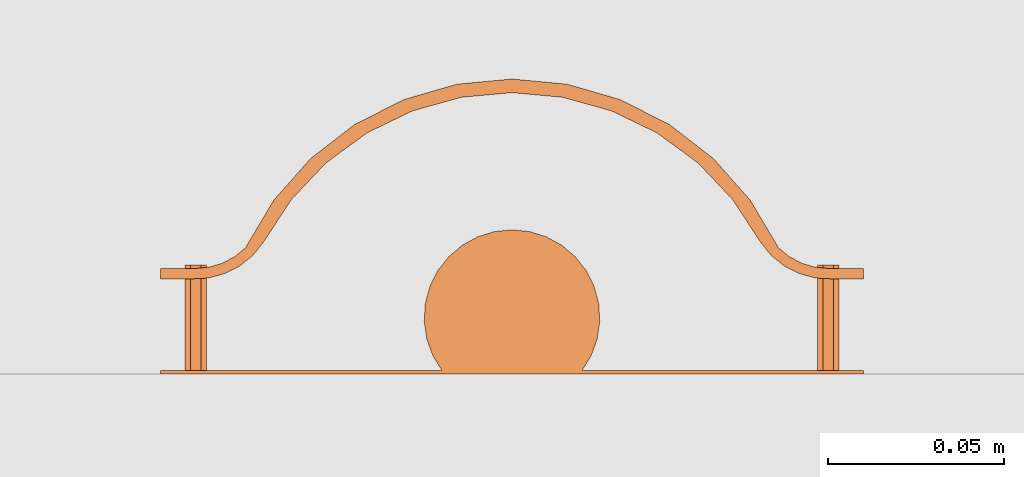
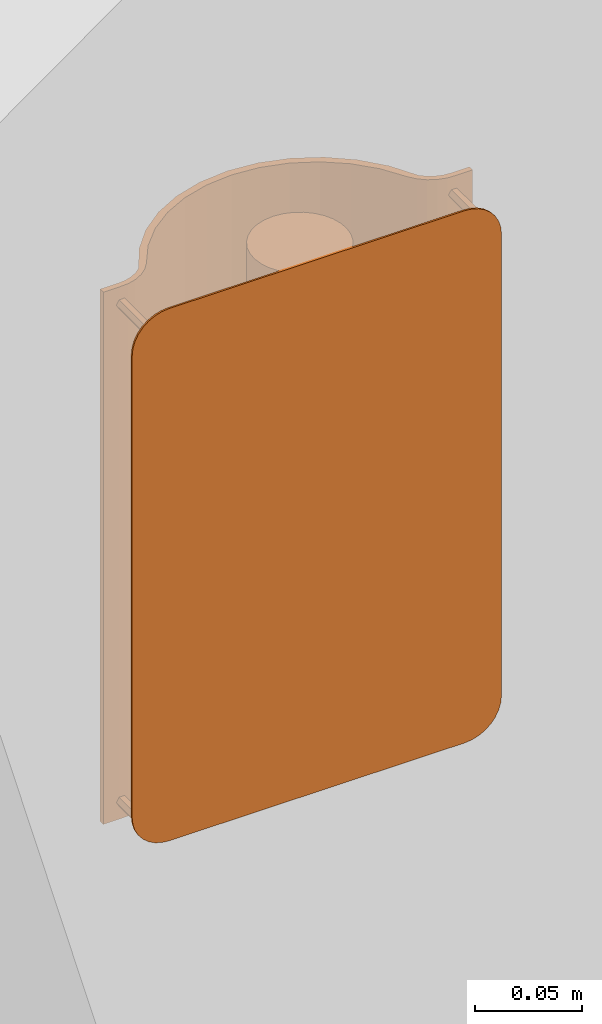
# One storey, part 27 of 48: 1 proxy.
"""IFC2X3 building model written with IfcOpenShell, lengths in inches."""

from ifc_helpers import new_model, entity, si_unit, converted_unit, derived_unit, money_unit, direction, frame, origin_with_axes, place, context, subcontext, project, spatial, faceted_brep, source, transform, mapped, type_object, element, save


model = new_model("IFC2X3")

# Units and contexts
model_context = context("Model", 3, precision=0.00039370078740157, world=origin_with_axes(), true_north=direction((0.0, 1.0)))
plan_context = context("Plan", 3, precision=0.00039370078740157, world=origin_with_axes(), true_north=direction((0.0, 1.0)))
body_context = subcontext(model_context, "Body", "Model", "MODEL_VIEW")
ifc_project = project(units=[converted_unit("LENGTHUNIT", "INCH", entity("IfcPositiveLengthMeasure", 0.0254), si_unit("LENGTHUNIT", "METRE"), dimensions=[1, 0, 0, 0, 0, 0, 0]), converted_unit("AREAUNIT", "SQUARE_FOOT", entity("IfcPositiveLengthMeasure", 0.09290304), si_unit("AREAUNIT", "SQUARE_METRE"), dimensions=[2, 0, 0, 0, 0, 0, 0]), si_unit("PLANEANGLEUNIT", "RADIAN"), si_unit("SOLIDANGLEUNIT", "STERADIAN"), money_unit("USD"), converted_unit("TIMEUNIT", "Year", entity("IfcTimeMeasure", 31557600.0), si_unit("TIMEUNIT", "SECOND"), dimensions=[0, 0, 1, 0, 0, 0, 0]), si_unit("MASSUNIT", "GRAM", prefix="KILO"), si_unit("THERMODYNAMICTEMPERATUREUNIT", "DEGREE_CELSIUS"), si_unit("LUMINOUSINTENSITYUNIT", "LUMEN"), si_unit("ENERGYUNIT", "JOULE", prefix="MEGA"), derived_unit("SPECIFICHEATCAPACITYUNIT", [(si_unit("ENERGYUNIT", "JOULE"), 1), (si_unit("MASSUNIT", "GRAM", prefix="KILO"), -1), (si_unit("THERMODYNAMICTEMPERATUREUNIT", "KELVIN"), -1)])], contexts=[model_context, plan_context])

# Site, building, storey
site_placement = place(None, origin_with_axes())
site = spatial("IfcSite", under=ifc_project, at=site_placement, Name="Site", CompositionType="ELEMENT")
building_placement = place(site_placement, origin_with_axes())
building = spatial("IfcBuilding", under=site, at=building_placement, Name="Building", CompositionType="ELEMENT")
storey_placement = place(building_placement, origin_with_axes())
storey = spatial("IfcBuildingStorey", under=building, at=storey_placement, Name="First Floor", CompositionType="ELEMENT", Elevation=0.0)

# Proxy
building_element_proxy_type = type_object("IfcBuildingElementProxyType", Name="Wall Lamp", PredefinedType="NOTDEFINED")
shared_shape = source(origin_with_axes(), body_context, "Body", "Brep", [
    faceted_brep([(3.9370078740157, -1.062992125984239, 0.0), (3.591991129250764, -1.063143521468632, 0.0), (3.591991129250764, -1.063143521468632, 11.99999999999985), (3.9370078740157, -1.062992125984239, 11.99999999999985), (3.9370078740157, -1.18110236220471, 0.0), (3.54330708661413, -1.18110236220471, 0.0), (3.389692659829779, -1.196232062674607, 0.0), (3.241981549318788, -1.241039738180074, 0.0), (3.105850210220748, -1.31380345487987, 0.0), (2.986530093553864, -1.411726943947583, 0.0), (2.669665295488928, -1.945564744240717, 0.0), (2.258517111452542, -2.410691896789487, 0.0), (1.767605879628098, -2.790681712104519, 0.0), (1.214268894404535, -3.072114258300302, 0.0), (0.6180481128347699, -3.245050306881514, 0.0), (0.0, -3.30338235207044, 0.0), (0.0, -3.14960629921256, 0.0), (0.5658852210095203, -3.098353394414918, 0.0), (1.113353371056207, -2.946262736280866, 0.0), (1.624586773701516, -2.698284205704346, 0.0), (2.082947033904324, -2.362488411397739, 0.0), (2.47351654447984, -1.949804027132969, 0.0), (2.783583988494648, -1.473662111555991, 0.0), (2.903069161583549, -1.326520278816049, 0.0), (3.050535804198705, -1.207436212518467, 0.0), (3.219538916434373, -1.121614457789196, 0.0), (3.402692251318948, -1.072805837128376, 0.0), (3.402692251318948, -1.072805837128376, 11.99999999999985), (3.219538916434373, -1.121614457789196, 11.99999999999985), (3.050535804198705, -1.207436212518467, 11.99999999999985), (2.903069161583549, -1.326520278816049, 11.99999999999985), (2.783583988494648, -1.473662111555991, 11.99999999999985), (2.47351654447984, -1.949804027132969, 11.99999999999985), (2.082947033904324, -2.362488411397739, 11.99999999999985), (1.624586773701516, -2.698284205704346, 11.99999999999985), (1.113353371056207, -2.946262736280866, 11.99999999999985), (0.5658852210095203, -3.098353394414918, 11.99999999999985), (0.0, -3.14960629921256, 11.99999999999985), (0.0, -3.30338235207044, 11.99999999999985), (0.6180481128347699, -3.245050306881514, 11.99999999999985), (1.214268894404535, -3.072114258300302, 11.99999999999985), (1.767605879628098, -2.790681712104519, 11.99999999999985), (2.258517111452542, -2.410691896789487, 11.99999999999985), (2.669665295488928, -1.945564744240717, 11.99999999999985), (2.986530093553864, -1.411726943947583, 11.99999999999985), (3.105850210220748, -1.31380345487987, 11.99999999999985), (3.241981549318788, -1.241039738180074, 11.99999999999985), (3.389692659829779, -1.196232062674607, 11.99999999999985), (3.54330708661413, -1.18110236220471, 11.99999999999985), (3.9370078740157, -1.18110236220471, 11.99999999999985)], [[[0, 1, 2, 3]], [[0, 4, 5, 6, 7, 8, 9, 10, 11, 12, 13, 14, 15, 16, 17, 18, 19, 20, 21, 22, 23, 24, 25, 26, 1]], [[1, 26, 27, 2]], [[3, 2, 27, 28, 29, 30, 31, 32, 33, 34, 35, 36, 37, 38, 39, 40, 41, 42, 43, 44, 45, 46, 47, 48, 49]], [[4, 0, 3, 49]], [[5, 4, 49, 48]], [[6, 5, 48, 47]], [[7, 6, 47, 46]], [[8, 7, 46, 45]], [[9, 8, 45, 44]], [[10, 9, 44, 43]], [[11, 10, 43, 42]], [[12, 11, 42, 41]], [[13, 12, 41, 40]], [[14, 13, 40, 39]], [[15, 14, 39, 38]], [[16, 15, 38, 37]], [[17, 16, 37, 36]], [[18, 17, 36, 35]], [[19, 18, 35, 34]], [[20, 19, 34, 33]], [[21, 20, 33, 32]], [[22, 21, 32, 31]], [[23, 22, 31, 30]], [[24, 23, 30, 29]], [[25, 24, 29, 28]], [[26, 25, 28, 27]]]),
    faceted_brep([(-3.9370078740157, -1.062992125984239, 0.0), (-3.9370078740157, -1.062992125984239, 11.99999999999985), (-3.591991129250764, -1.063143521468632, 11.99999999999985), (-3.591991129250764, -1.063143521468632, 0.0), (-3.9370078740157, -1.18110236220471, 0.0), (-3.9370078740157, -1.18110236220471, 11.99999999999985), (-3.54330708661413, -1.18110236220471, 11.99999999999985), (-3.389692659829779, -1.196232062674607, 11.99999999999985), (-3.241981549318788, -1.241039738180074, 11.99999999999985), (-3.105850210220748, -1.31380345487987, 11.99999999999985), (-2.986530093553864, -1.411726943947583, 11.99999999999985), (-2.669665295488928, -1.945564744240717, 11.99999999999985), (-2.258517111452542, -2.410691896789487, 11.99999999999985), (-1.767605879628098, -2.790681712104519, 11.99999999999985), (-1.214268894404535, -3.072114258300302, 11.99999999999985), (-0.6180481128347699, -3.245050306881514, 11.99999999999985), (0.0, -3.30338235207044, 11.99999999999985), (0.0, -3.14960629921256, 11.99999999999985), (-0.5658852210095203, -3.098353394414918, 11.99999999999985), (-1.113353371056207, -2.946262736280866, 11.99999999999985), (-1.624586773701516, -2.698284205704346, 11.99999999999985), (-2.082947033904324, -2.362488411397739, 11.99999999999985), (-2.47351654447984, -1.949804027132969, 11.99999999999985), (-2.783583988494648, -1.473662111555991, 11.99999999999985), (-2.903069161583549, -1.326520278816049, 11.99999999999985), (-3.050535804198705, -1.207436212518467, 11.99999999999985), (-3.219538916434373, -1.121614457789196, 11.99999999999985), (-3.402692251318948, -1.072805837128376, 11.99999999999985), (-3.402692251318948, -1.072805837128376, 0.0), (-3.219538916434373, -1.121614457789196, 0.0), (-3.050535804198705, -1.207436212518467, 0.0), (-2.903069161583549, -1.326520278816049, 0.0), (-2.783583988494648, -1.473662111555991, 0.0), (-2.47351654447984, -1.949804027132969, 0.0), (-2.082947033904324, -2.362488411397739, 0.0), (-1.624586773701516, -2.698284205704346, 0.0), (-1.113353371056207, -2.946262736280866, 0.0), (-0.5658852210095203, -3.098353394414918, 0.0), (0.0, -3.14960629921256, 0.0), (0.0, -3.30338235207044, 0.0), (-0.6180481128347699, -3.245050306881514, 0.0), (-1.214268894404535, -3.072114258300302, 0.0), (-1.767605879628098, -2.790681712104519, 0.0), (-2.258517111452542, -2.410691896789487, 0.0), (-2.669665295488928, -1.945564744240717, 0.0), (-2.986530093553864, -1.411726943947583, 0.0), (-3.105850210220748, -1.31380345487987, 0.0), (-3.241981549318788, -1.241039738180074, 0.0), (-3.389692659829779, -1.196232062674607, 0.0), (-3.54330708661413, -1.18110236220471, 0.0)], [[[0, 1, 2, 3]], [[4, 5, 1, 0]], [[1, 5, 6, 7, 8, 9, 10, 11, 12, 13, 14, 15, 16, 17, 18, 19, 20, 21, 22, 23, 24, 25, 26, 27, 2]], [[3, 2, 27, 28]], [[0, 3, 28, 29, 30, 31, 32, 33, 34, 35, 36, 37, 38, 39, 40, 41, 42, 43, 44, 45, 46, 47, 48, 49, 4]], [[49, 6, 5, 4]], [[48, 7, 6, 49]], [[47, 8, 7, 48]], [[46, 9, 8, 47]], [[45, 10, 9, 46]], [[44, 11, 10, 45]], [[43, 12, 11, 44]], [[42, 13, 12, 43]], [[41, 14, 13, 42]], [[40, 15, 14, 41]], [[39, 16, 15, 40]], [[38, 17, 16, 39]], [[37, 18, 17, 38]], [[36, 19, 18, 37]], [[35, 20, 19, 36]], [[34, 21, 20, 35]], [[33, 22, 21, 34]], [[32, 23, 22, 33]], [[31, 24, 23, 32]], [[30, 25, 24, 31]], [[29, 26, 25, 30]], [[28, 27, 26, 29]]]),
    faceted_brep([(3.14960629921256, 0.0, 0.0), (3.14960629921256, -0.039370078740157, 0.0), (-3.14960629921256, -0.039370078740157, 0.0), (-3.14960629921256, 0.0, 0.0), (3.303220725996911, 0.0, 0.01512970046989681), (3.303220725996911, -0.039370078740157, 0.01512970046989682), (3.450931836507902, -0.039370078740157, 0.05993737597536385), (3.587063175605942, -0.03937007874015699, 0.1327010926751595), (3.706383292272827, -0.03937007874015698, 0.230624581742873), (3.80430678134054, -0.03937007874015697, 0.3499446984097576), (3.877070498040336, -0.03937007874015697, 0.4860760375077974), (3.921878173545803, -0.03937007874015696, 0.633787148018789), (3.9370078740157, -0.03937007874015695, 0.78740157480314), (3.9370078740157, -0.03937007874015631, 11.21259842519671), (3.921878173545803, -0.0393700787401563, 11.36621285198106), (3.877070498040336, -0.03937007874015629, 11.51392396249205), (3.80430678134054, -0.03937007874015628, 11.65005530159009), (3.706383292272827, -0.03937007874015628, 11.76937541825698), (3.587063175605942, -0.03937007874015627, 11.86729890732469), (3.450931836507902, -0.03937007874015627, 11.94006262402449), (3.30322072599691, -0.03937007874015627, 11.98487029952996), (3.14960629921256, -0.03937007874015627, 11.99999999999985), (-3.14960629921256, -0.03937007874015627, 11.99999999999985), (-3.30322072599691, -0.03937007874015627, 11.98487029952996), (-3.450931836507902, -0.03937007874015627, 11.94006262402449), (-3.587063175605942, -0.03937007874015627, 11.86729890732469), (-3.706383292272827, -0.03937007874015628, 11.76937541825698), (-3.80430678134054, -0.03937007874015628, 11.65005530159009), (-3.877070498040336, -0.03937007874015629, 11.51392396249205), (-3.921878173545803, -0.0393700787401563, 11.36621285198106), (-3.9370078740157, -0.03937007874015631, 11.21259842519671), (-3.9370078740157, -0.03937007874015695, 0.7874015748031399), (-3.921878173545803, -0.03937007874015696, 0.6337871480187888), (-3.877070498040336, -0.03937007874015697, 0.4860760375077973), (-3.80430678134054, -0.03937007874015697, 0.3499446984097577), (-3.706383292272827, -0.03937007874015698, 0.2306245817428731), (-3.587063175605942, -0.03937007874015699, 0.1327010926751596), (-3.450931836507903, -0.039370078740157, 0.05993737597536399), (-3.303220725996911, -0.039370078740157, 0.01512970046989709), (-3.303220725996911, 0.0, 0.01512970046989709), (-3.450931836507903, 0.0, 0.05993737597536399), (-3.587063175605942, 0.0, 0.1327010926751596), (-3.706383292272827, 0.0, 0.2306245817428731), (-3.80430678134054, 0.0, 0.3499446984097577), (-3.877070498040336, 0.0, 0.4860760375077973), (-3.921878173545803, 0.0, 0.6337871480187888), (-3.9370078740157, 0.0, 0.7874015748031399), (-3.9370078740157, 0.0, 11.21259842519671), (-3.921878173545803, 0.0, 11.36621285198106), (-3.877070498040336, 0.0, 11.51392396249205), (-3.80430678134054, 0.0, 11.65005530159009), (-3.706383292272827, 0.0, 11.76937541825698), (-3.587063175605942, 0.0, 11.86729890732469), (-3.450931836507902, 0.0, 11.94006262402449), (-3.30322072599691, 0.0, 11.98487029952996), (-3.14960629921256, 0.0, 11.99999999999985), (3.14960629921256, 0.0, 11.99999999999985), (3.30322072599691, 0.0, 11.98487029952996), (3.450931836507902, 0.0, 11.94006262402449), (3.587063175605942, 0.0, 11.86729890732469), (3.706383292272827, 0.0, 11.76937541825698), (3.80430678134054, 0.0, 11.65005530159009), (3.877070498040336, 0.0, 11.51392396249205), (3.921878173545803, 0.0, 11.36621285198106), (3.9370078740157, 0.0, 11.21259842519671), (3.9370078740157, 0.0, 0.78740157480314), (3.921878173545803, 0.0, 0.633787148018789), (3.877070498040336, 0.0, 0.4860760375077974), (3.80430678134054, 0.0, 0.3499446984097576), (3.706383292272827, 0.0, 0.230624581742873), (3.587063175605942, 0.0, 0.1327010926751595), (3.450931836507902, 0.0, 0.05993737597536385)], [[[0, 1, 2, 3]], [[4, 5, 1, 0]], [[1, 5, 6, 7, 8, 9, 10, 11, 12, 13, 14, 15, 16, 17, 18, 19, 20, 21, 22, 23, 24, 25, 26, 27, 28, 29, 30, 31, 32, 33, 34, 35, 36, 37, 38, 2]], [[3, 2, 38, 39]], [[0, 3, 39, 40, 41, 42, 43, 44, 45, 46, 47, 48, 49, 50, 51, 52, 53, 54, 55, 56, 57, 58, 59, 60, 61, 62, 63, 64, 65, 66, 67, 68, 69, 70, 71, 4]], [[71, 6, 5, 4]], [[70, 7, 6, 71]], [[69, 8, 7, 70]], [[68, 9, 8, 69]], [[67, 10, 9, 68]], [[66, 11, 10, 67]], [[65, 12, 11, 66]], [[64, 13, 12, 65]], [[63, 14, 13, 64]], [[62, 15, 14, 63]], [[61, 16, 15, 62]], [[60, 17, 16, 61]], [[59, 18, 17, 60]], [[58, 19, 18, 59]], [[57, 20, 19, 58]], [[56, 21, 20, 57]], [[55, 22, 21, 56]], [[54, 23, 22, 55]], [[53, 24, 23, 54]], [[52, 25, 24, 53]], [[51, 26, 25, 52]], [[50, 27, 26, 51]], [[49, 28, 27, 50]], [[48, 29, 28, 49]], [[47, 30, 29, 48]], [[46, 31, 30, 47]], [[45, 32, 31, 46]], [[44, 33, 32, 45]], [[43, 34, 33, 44]], [[42, 35, 34, 43]], [[41, 36, 35, 42]], [[40, 37, 36, 41]], [[39, 38, 37, 40]]]),
    faceted_brep([(3.661417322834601, -0.03937007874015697, 0.39370078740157), (3.602362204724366, -0.03937007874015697, 0.4959872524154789), (3.602362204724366, -1.220472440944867, 0.495987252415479), (3.661417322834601, -1.220472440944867, 0.3937007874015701), (3.602362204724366, -0.03937007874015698, 0.291414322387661), (3.484251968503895, -0.03937007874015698, 0.2914143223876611), (3.425196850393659, -0.03937007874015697, 0.3937007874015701), (3.484251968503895, -0.03937007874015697, 0.495987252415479), (3.484251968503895, -1.220472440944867, 0.495987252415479), (3.425196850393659, -1.220472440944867, 0.3937007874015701), (3.484251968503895, -1.220472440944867, 0.2914143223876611), (3.602362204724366, -1.220472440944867, 0.2914143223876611)], [[[0, 1, 2, 3]], [[0, 4, 5, 6, 7, 1]], [[1, 7, 8, 2]], [[3, 2, 8, 9, 10, 11]], [[4, 0, 3, 11]], [[5, 4, 11, 10]], [[6, 5, 10, 9]], [[7, 6, 9, 8]]]),
    faceted_brep([(-3.425196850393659, -0.03937007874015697, 0.39370078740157), (-3.484251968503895, -0.03937007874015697, 0.4959872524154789), (-3.484251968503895, -1.220472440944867, 0.495987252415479), (-3.425196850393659, -1.220472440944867, 0.3937007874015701), (-3.484251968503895, -0.03937007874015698, 0.291414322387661), (-3.602362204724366, -0.03937007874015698, 0.2914143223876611), (-3.661417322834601, -0.03937007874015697, 0.3937007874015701), (-3.602362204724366, -0.03937007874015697, 0.495987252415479), (-3.602362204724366, -1.220472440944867, 0.495987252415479), (-3.661417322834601, -1.220472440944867, 0.3937007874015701), (-3.602362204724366, -1.220472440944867, 0.2914143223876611), (-3.484251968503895, -1.220472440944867, 0.2914143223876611)], [[[0, 1, 2, 3]], [[0, 4, 5, 6, 7, 1]], [[1, 7, 8, 2]], [[3, 2, 8, 9, 10, 11]], [[4, 0, 3, 11]], [[5, 4, 11, 10]], [[6, 5, 10, 9]], [[7, 6, 9, 8]]]),
    faceted_brep([(3.661417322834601, -0.03937007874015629, 11.60629921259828), (3.602362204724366, -0.03937007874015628, 11.70858567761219), (3.602362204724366, -1.220472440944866, 11.70858567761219), (3.661417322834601, -1.220472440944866, 11.60629921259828), (3.602362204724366, -0.03937007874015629, 11.50401274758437), (3.484251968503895, -0.03937007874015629, 11.50401274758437), (3.425196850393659, -0.03937007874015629, 11.60629921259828), (3.484251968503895, -0.03937007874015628, 11.70858567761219), (3.484251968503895, -1.220472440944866, 11.70858567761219), (3.425196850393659, -1.220472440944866, 11.60629921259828), (3.484251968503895, -1.220472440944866, 11.50401274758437), (3.602362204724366, -1.220472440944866, 11.50401274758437)], [[[0, 1, 2, 3]], [[0, 4, 5, 6, 7, 1]], [[1, 7, 8, 2]], [[3, 2, 8, 9, 10, 11]], [[4, 0, 3, 11]], [[5, 4, 11, 10]], [[6, 5, 10, 9]], [[7, 6, 9, 8]]]),
    faceted_brep([(-3.425196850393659, -0.03937007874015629, 11.60629921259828), (-3.484251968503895, -0.03937007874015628, 11.70858567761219), (-3.484251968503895, -1.220472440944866, 11.70858567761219), (-3.425196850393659, -1.220472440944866, 11.60629921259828), (-3.484251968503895, -0.03937007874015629, 11.50401274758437), (-3.602362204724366, -0.03937007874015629, 11.50401274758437), (-3.661417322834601, -0.03937007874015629, 11.60629921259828), (-3.602362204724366, -0.03937007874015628, 11.70858567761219), (-3.602362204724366, -1.220472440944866, 11.70858567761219), (-3.661417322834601, -1.220472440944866, 11.60629921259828), (-3.602362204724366, -1.220472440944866, 11.50401274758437), (-3.484251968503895, -1.220472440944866, 11.50401274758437)], [[[0, 1, 2, 3]], [[0, 4, 5, 6, 7, 1]], [[1, 7, 8, 2]], [[3, 2, 8, 9, 10, 11]], [[4, 0, 3, 11]], [[5, 4, 11, 10]], [[6, 5, 10, 9]], [[7, 6, 9, 8]]]),
    faceted_brep([(-0.7874015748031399, -0.039370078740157, 0.0), (-0.8895785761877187, -0.2087302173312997, 0.0), (-0.8895785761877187, -0.2087302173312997, 0.984251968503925), (-0.7874015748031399, -0.039370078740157, 0.984251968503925), (0.78740157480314, -0.039370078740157, 0.0), (0.889578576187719, -0.2087302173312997, 0.0), (0.9558299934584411, -0.3951001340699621, 0.0), (0.9834802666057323, -0.5909532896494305, 0.0), (0.971412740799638, -0.7883801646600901, 0.0), (0.9201147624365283, -0.9794076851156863, 0.0), (0.8316579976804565, -1.15632121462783, 0.0), (0.7096147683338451, -1.311976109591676, 0.0), (0.5589137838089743, -1.440086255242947, 0.0), (0.3856410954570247, -1.535477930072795, 0.0), (0.1967943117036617, -1.594298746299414, 0.0), (0.0, -1.614173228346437, 0.0), (-0.1967943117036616, -1.594298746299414, 0.0), (-0.3856410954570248, -1.535477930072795, 0.0), (-0.5589137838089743, -1.440086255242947, 0.0), (-0.7096147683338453, -1.311976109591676, 0.0), (-0.8316579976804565, -1.15632121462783, 0.0), (-0.9201147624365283, -0.979407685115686, 0.0), (-0.971412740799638, -0.7883801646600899, 0.0), (-0.9834802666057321, -0.5909532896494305, 0.0), (-0.9558299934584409, -0.3951001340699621, 0.0), (-0.9558299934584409, -0.3951001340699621, 0.984251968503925), (-0.9834802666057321, -0.5909532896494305, 0.984251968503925), (-0.971412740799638, -0.7883801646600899, 0.984251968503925), (-0.9201147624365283, -0.979407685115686, 0.984251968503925), (-0.8316579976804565, -1.15632121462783, 0.984251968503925), (-0.7096147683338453, -1.311976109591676, 0.984251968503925), (-0.5589137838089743, -1.440086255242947, 0.984251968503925), (-0.3856410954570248, -1.535477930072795, 0.984251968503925), (-0.1967943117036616, -1.594298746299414, 0.984251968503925), (0.0, -1.614173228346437, 0.984251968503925), (0.1967943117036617, -1.594298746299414, 0.984251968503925), (0.3856410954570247, -1.535477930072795, 0.984251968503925), (0.5589137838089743, -1.440086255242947, 0.984251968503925), (0.7096147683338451, -1.311976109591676, 0.984251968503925), (0.8316579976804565, -1.15632121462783, 0.984251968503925), (0.9201147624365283, -0.9794076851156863, 0.984251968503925), (0.971412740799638, -0.7883801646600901, 0.984251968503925), (0.9834802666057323, -0.5909532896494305, 0.984251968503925), (0.9558299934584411, -0.3951001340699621, 0.984251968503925), (0.889578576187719, -0.2087302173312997, 0.984251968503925), (0.78740157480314, -0.039370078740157, 0.984251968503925)], [[[0, 1, 2, 3]], [[0, 4, 5, 6, 7, 8, 9, 10, 11, 12, 13, 14, 15, 16, 17, 18, 19, 20, 21, 22, 23, 24, 1]], [[1, 24, 25, 2]], [[3, 2, 25, 26, 27, 28, 29, 30, 31, 32, 33, 34, 35, 36, 37, 38, 39, 40, 41, 42, 43, 44, 45]], [[4, 0, 3, 45]], [[5, 4, 45, 44]], [[6, 5, 44, 43]], [[7, 6, 43, 42]], [[8, 7, 42, 41]], [[9, 8, 41, 40]], [[10, 9, 40, 39]], [[11, 10, 39, 38]], [[12, 11, 38, 37]], [[13, 12, 37, 36]], [[14, 13, 36, 35]], [[15, 14, 35, 34]], [[16, 15, 34, 33]], [[17, 16, 33, 32]], [[18, 17, 32, 31]], [[19, 18, 31, 30]], [[20, 19, 30, 29]], [[21, 20, 29, 28]], [[22, 21, 28, 27]], [[23, 22, 27, 26]], [[24, 23, 26, 25]]]),
    faceted_brep([(-0.7874015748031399, -0.039370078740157, 11.01574803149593), (-0.8895785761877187, -0.2087302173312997, 11.01574803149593), (-0.8895785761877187, -0.2087302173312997, 11.99999999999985), (-0.7874015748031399, -0.039370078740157, 11.99999999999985), (0.78740157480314, -0.039370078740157, 11.01574803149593), (0.889578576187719, -0.2087302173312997, 11.01574803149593), (0.9558299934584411, -0.3951001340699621, 11.01574803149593), (0.9834802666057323, -0.5909532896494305, 11.01574803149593), (0.971412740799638, -0.7883801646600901, 11.01574803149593), (0.9201147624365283, -0.9794076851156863, 11.01574803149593), (0.8316579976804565, -1.15632121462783, 11.01574803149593), (0.7096147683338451, -1.311976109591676, 11.01574803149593), (0.5589137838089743, -1.440086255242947, 11.01574803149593), (0.3856410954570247, -1.535477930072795, 11.01574803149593), (0.1967943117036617, -1.594298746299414, 11.01574803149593), (0.0, -1.614173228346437, 11.01574803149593), (-0.1967943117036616, -1.594298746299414, 11.01574803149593), (-0.3856410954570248, -1.535477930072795, 11.01574803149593), (-0.5589137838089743, -1.440086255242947, 11.01574803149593), (-0.7096147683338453, -1.311976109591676, 11.01574803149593), (-0.8316579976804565, -1.15632121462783, 11.01574803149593), (-0.9201147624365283, -0.979407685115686, 11.01574803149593), (-0.971412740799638, -0.7883801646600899, 11.01574803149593), (-0.9834802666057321, -0.5909532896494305, 11.01574803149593), (-0.9558299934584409, -0.3951001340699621, 11.01574803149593), (-0.9558299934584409, -0.3951001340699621, 11.99999999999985), (-0.9834802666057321, -0.5909532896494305, 11.99999999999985), (-0.971412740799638, -0.7883801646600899, 11.99999999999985), (-0.9201147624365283, -0.979407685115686, 11.99999999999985), (-0.8316579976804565, -1.15632121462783, 11.99999999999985), (-0.7096147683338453, -1.311976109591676, 11.99999999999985), (-0.5589137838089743, -1.440086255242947, 11.99999999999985), (-0.3856410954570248, -1.535477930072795, 11.99999999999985), (-0.1967943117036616, -1.594298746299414, 11.99999999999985), (0.0, -1.614173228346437, 11.99999999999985), (0.1967943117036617, -1.594298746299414, 11.99999999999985), (0.3856410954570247, -1.535477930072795, 11.99999999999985), (0.5589137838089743, -1.440086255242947, 11.99999999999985), (0.7096147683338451, -1.311976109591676, 11.99999999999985), (0.8316579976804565, -1.15632121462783, 11.99999999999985), (0.9201147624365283, -0.9794076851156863, 11.99999999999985), (0.971412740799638, -0.7883801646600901, 11.99999999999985), (0.9834802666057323, -0.5909532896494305, 11.99999999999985), (0.9558299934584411, -0.3951001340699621, 11.99999999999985), (0.889578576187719, -0.2087302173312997, 11.99999999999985), (0.78740157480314, -0.039370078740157, 11.99999999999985)], [[[0, 1, 2, 3]], [[0, 4, 5, 6, 7, 8, 9, 10, 11, 12, 13, 14, 15, 16, 17, 18, 19, 20, 21, 22, 23, 24, 1]], [[1, 24, 25, 2]], [[3, 2, 25, 26, 27, 28, 29, 30, 31, 32, 33, 34, 35, 36, 37, 38, 39, 40, 41, 42, 43, 44, 45]], [[4, 0, 3, 45]], [[5, 4, 45, 44]], [[6, 5, 44, 43]], [[7, 6, 43, 42]], [[8, 7, 42, 41]], [[9, 8, 41, 40]], [[10, 9, 40, 39]], [[11, 10, 39, 38]], [[12, 11, 38, 37]], [[13, 12, 37, 36]], [[14, 13, 36, 35]], [[15, 14, 35, 34]], [[16, 15, 34, 33]], [[17, 16, 33, 32]], [[18, 17, 32, 31]], [[19, 18, 31, 30]], [[20, 19, 30, 29]], [[21, 20, 29, 28]], [[22, 21, 28, 27]], [[23, 22, 27, 26]], [[24, 23, 26, 25]]]),
    faceted_brep([(-0.7874015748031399, -0.039370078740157, 0.984251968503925), (-0.8895785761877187, -0.2087302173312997, 0.984251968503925), (-0.8895785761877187, -0.2087302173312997, 11.01574803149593), (-0.7874015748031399, -0.039370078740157, 11.01574803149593), (0.78740157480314, -0.039370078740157, 0.984251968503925), (0.889578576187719, -0.2087302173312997, 0.984251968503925), (0.9558299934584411, -0.3951001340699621, 0.984251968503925), (0.9834802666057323, -0.5909532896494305, 0.984251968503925), (0.971412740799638, -0.7883801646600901, 0.984251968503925), (0.9201147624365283, -0.9794076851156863, 0.984251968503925), (0.8316579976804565, -1.15632121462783, 0.984251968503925), (0.7096147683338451, -1.311976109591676, 0.984251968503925), (0.5589137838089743, -1.440086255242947, 0.984251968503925), (0.3856410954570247, -1.535477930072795, 0.984251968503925), (0.1967943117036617, -1.594298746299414, 0.984251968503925), (0.0, -1.614173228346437, 0.984251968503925), (-0.1967943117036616, -1.594298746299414, 0.984251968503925), (-0.3856410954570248, -1.535477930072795, 0.984251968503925), (-0.5589137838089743, -1.440086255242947, 0.984251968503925), (-0.7096147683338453, -1.311976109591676, 0.984251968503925), (-0.8316579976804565, -1.15632121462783, 0.984251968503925), (-0.9201147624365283, -0.979407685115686, 0.984251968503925), (-0.971412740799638, -0.7883801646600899, 0.984251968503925), (-0.9834802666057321, -0.5909532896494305, 0.984251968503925), (-0.9558299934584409, -0.3951001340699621, 0.984251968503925), (-0.9558299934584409, -0.3951001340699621, 11.01574803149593), (-0.9834802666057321, -0.5909532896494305, 11.01574803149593), (-0.971412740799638, -0.7883801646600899, 11.01574803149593), (-0.9201147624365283, -0.979407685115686, 11.01574803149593), (-0.8316579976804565, -1.15632121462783, 11.01574803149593), (-0.7096147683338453, -1.311976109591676, 11.01574803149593), (-0.5589137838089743, -1.440086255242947, 11.01574803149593), (-0.3856410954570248, -1.535477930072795, 11.01574803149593), (-0.1967943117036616, -1.594298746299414, 11.01574803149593), (0.0, -1.614173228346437, 11.01574803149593), (0.1967943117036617, -1.594298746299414, 11.01574803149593), (0.3856410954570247, -1.535477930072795, 11.01574803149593), (0.5589137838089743, -1.440086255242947, 11.01574803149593), (0.7096147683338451, -1.311976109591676, 11.01574803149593), (0.8316579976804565, -1.15632121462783, 11.01574803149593), (0.9201147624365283, -0.9794076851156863, 11.01574803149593), (0.971412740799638, -0.7883801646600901, 11.01574803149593), (0.9834802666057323, -0.5909532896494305, 11.01574803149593), (0.9558299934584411, -0.3951001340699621, 11.01574803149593), (0.889578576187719, -0.2087302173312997, 11.01574803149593), (0.78740157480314, -0.039370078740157, 11.01574803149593)], [[[0, 1, 2, 3]], [[0, 4, 5, 6, 7, 8, 9, 10, 11, 12, 13, 14, 15, 16, 17, 18, 19, 20, 21, 22, 23, 24, 1]], [[1, 24, 25, 2]], [[3, 2, 25, 26, 27, 28, 29, 30, 31, 32, 33, 34, 35, 36, 37, 38, 39, 40, 41, 42, 43, 44, 45]], [[4, 0, 3, 45]], [[5, 4, 45, 44]], [[6, 5, 44, 43]], [[7, 6, 43, 42]], [[8, 7, 42, 41]], [[9, 8, 41, 40]], [[10, 9, 40, 39]], [[11, 10, 39, 38]], [[12, 11, 38, 37]], [[13, 12, 37, 36]], [[14, 13, 36, 35]], [[15, 14, 35, 34]], [[16, 15, 34, 33]], [[17, 16, 33, 32]], [[18, 17, 32, 31]], [[19, 18, 31, 30]], [[20, 19, 30, 29]], [[21, 20, 29, 28]], [[22, 21, 28, 27]], [[23, 22, 27, 26]], [[24, 23, 26, 25]]]),
])
proxy_placement = place(storey_placement, frame((119.9980231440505, 137.4999985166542, 58.99999999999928), z_axis=(0.0, 0.0, 1.0), x_axis=(-1.0, 0.0, 0.0)))
element("IfcBuildingElementProxy", 1, at=proxy_placement, inside=storey, type_object=building_element_proxy_type, Name="L-17", context=body_context, shape_type="MappedRepresentation", body=[
    mapped(shared_shape, transform((0.0, 0.0, 0.0))),
])

save(model, "model.ifc")
